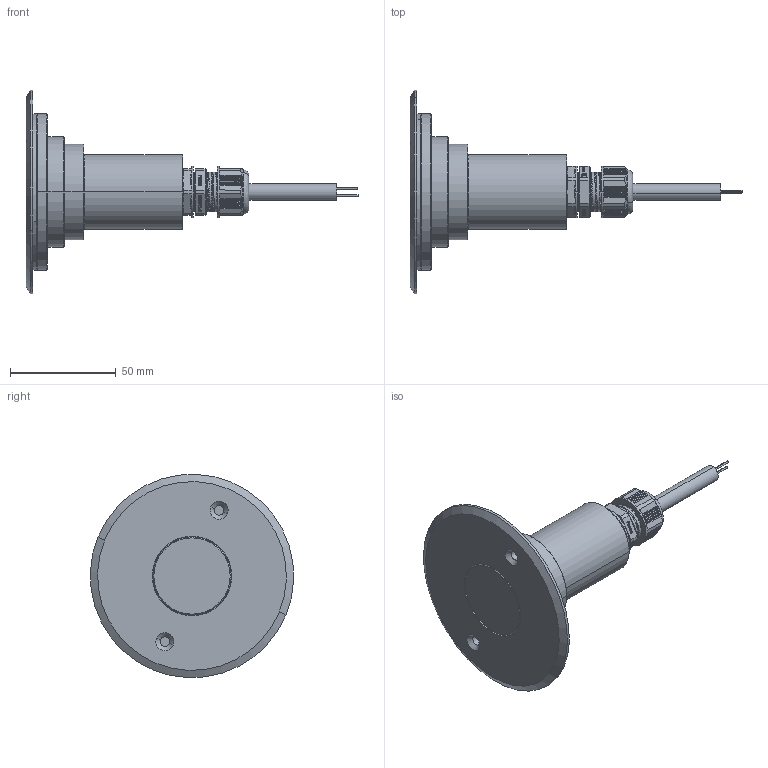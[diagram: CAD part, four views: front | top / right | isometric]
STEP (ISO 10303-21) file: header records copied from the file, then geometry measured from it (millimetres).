
FILE_DESCRIPTION (( 'STEP AP203' ), '1' );
FILE_NAME ('GROUND-STANDARD-BRASS-RD.STEP', '2023-03-16T13:08:45', ( '' ), ( '' ), 'SwSTEP 2.0', 'SolidWorks 2017', '' );
FILE_SCHEMA (( 'CONFIG_CONTROL_DESIGN' ));
Length unit declared in the file: millimetre
Products named in the file (7): gla-35_asm; M1610B; GROUND-STANDARD-BRASS-RD; PRZEWOD 2; DK151112MD04D; DK151112MD02E; DK140202DD04
Assembly tree (6 placements, depth 2):
  GROUND-STANDARD-BRASS-RD
    DK151112MD04D
    gla-35_asm
    DK151112MD02E
    M1610B
    PRZEWOD 2
    DK140202DD04
Bounding box: 156.6 x 95.91 x 95.91 mm (x, y, z)
Volume: 89675.6 mm3; surface area: 52920.5 mm2
Topology: 4 solids, 63 shells, 1371 faces, 3548 edges, 2312 vertices
Faces by surface type: plane 702, bspline 421, cylinder 128, cone 110, torus 10
Full cylindrical faces by diameter (mm): 16.6 x2
Entity records: 54511 total; most frequent: CARTESIAN_POINT 23969, ORIENTED_EDGE 6939, DIRECTION 4562, EDGE_CURVE 3533, VERTEX_POINT 2309, VECTOR 1834, LINE 1834, EDGE_LOOP 1489
